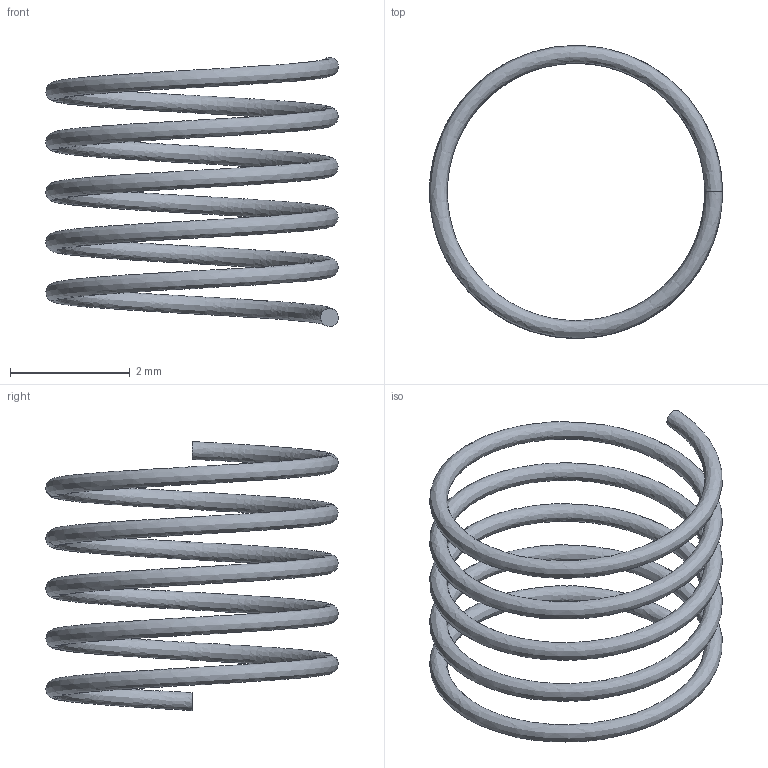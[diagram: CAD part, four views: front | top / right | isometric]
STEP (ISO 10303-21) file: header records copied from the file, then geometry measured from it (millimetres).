
FILE_DESCRIPTION(('Open CASCADE Model'),'2;1');
FILE_NAME('Open CASCADE Shape Model','2026-09-06T11:23:52',('Author'),( 'Open CASCADE'),'Open CASCADE STEP processor 7.7','Open CASCADE 7.7' ,'Unknown');
FILE_SCHEMA(('AUTOMOTIVE_DESIGN { 1 0 10303 214 1 1 1 1 }'));
Length unit declared in the file: millimetre
Products named in the file (1): Open CASCADE STEP translator 7.7 29
Bounding box: 4.9 x 4.9 x 4.5 mm (x, y, z)
Volume: 5.1 mm3; surface area: 68.3 mm2
Topology: 1 solids, 1 shells, 3 faces, 3 edges, 2 vertices
Faces by surface type: plane 2, bspline 1
Entity records: 573 total; most frequent: CARTESIAN_POINT 501, DIRECTION 10, ORIENTED_EDGE 6, PCURVE 6, DEFINITIONAL_REPRESENTATION 6, LINE 4, VECTOR 4, AXIS2_PLACEMENT_3D 3
